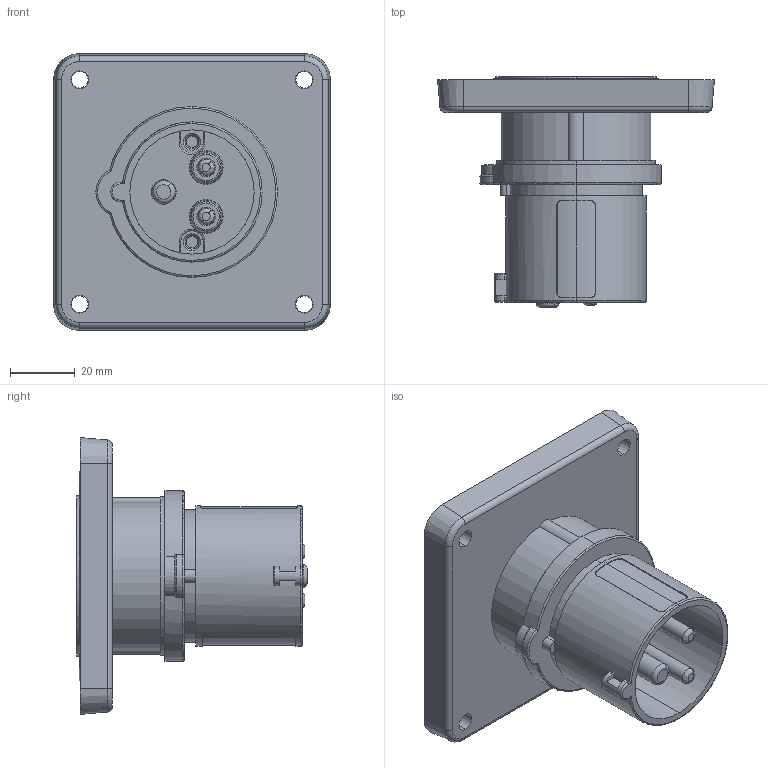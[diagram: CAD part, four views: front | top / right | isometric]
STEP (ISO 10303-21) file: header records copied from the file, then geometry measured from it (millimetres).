
FILE_DESCRIPTION (( 'STEP AP203' ), '1' );
FILE_NAME ('DIS2431693 (PSP 3p 16ﾀ 230ﾂ IP44).STEP', '2024-09-02T04:39:24', ( '' ), ( '' ), 'SwSTEP 2.0', 'SolidWorks 2022', '' );
FILE_SCHEMA (( 'CONFIG_CONTROL_DESIGN' ));
Length unit declared in the file: millimetre
Products named in the file (1): DIS2431693 (PSP 3p 16А 230В IP44)
Bounding box: 85.7 x 71.35 x 85.7 mm (x, y, z)
Volume: 125579.8 mm3; surface area: 35615.4 mm2
Topology: 1 solids, 6 shells, 255 faces, 599 edges, 380 vertices
Faces by surface type: plane 87, cylinder 83, cone 42, torus 29, bspline 14
Entity records: 8029 total; most frequent: CARTESIAN_POINT 1954, DIRECTION 1341, ORIENTED_EDGE 1198, EDGE_CURVE 599, AXIS2_PLACEMENT_3D 552, VERTEX_POINT 380, CIRCLE 310, EDGE_LOOP 287
